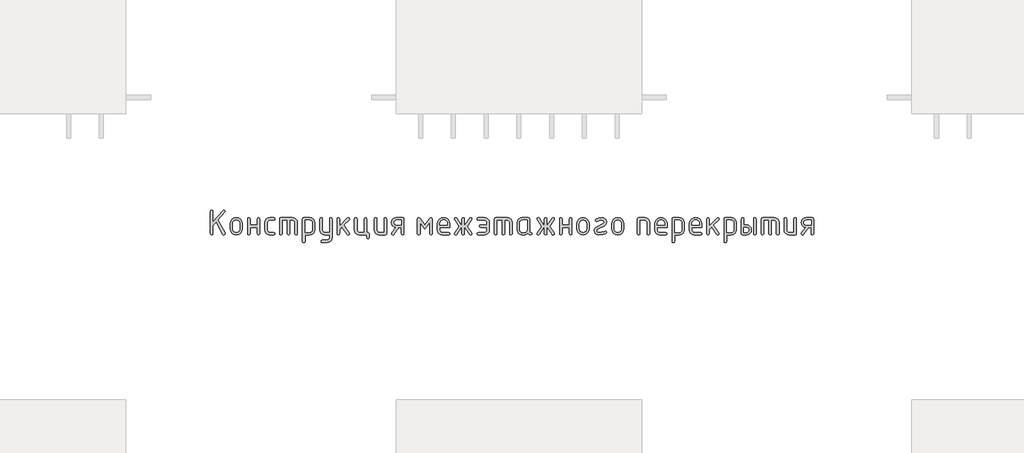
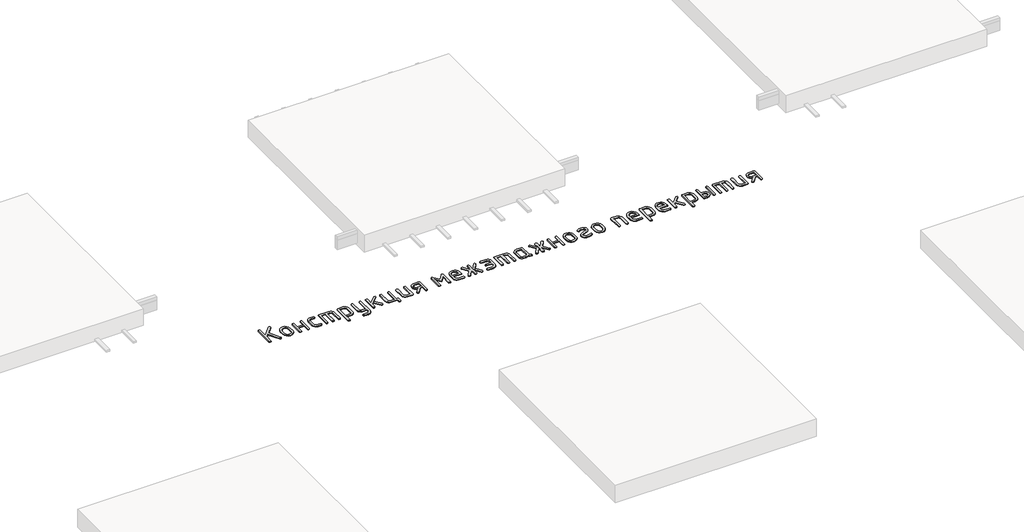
# One storey, part 40 of 42: 1 proxy.
"""IFC4 building model written with IfcOpenShell, lengths in millimetres."""

from ifc_helpers import new_model, si_unit, origin, origin_with_axes, place, context, project, spatial, polyline, outline, extrude, element, save

model = new_model("IFC4")

# Units and contexts
model_context = context("Model", 3, world=origin())
ifc_project = project(units=[si_unit("LENGTHUNIT", "METRE", prefix="MILLI")], contexts=[model_context])

# Site, building, storey
site = spatial("IfcSite", under=ifc_project)
building = spatial("IfcBuilding", under=site)
storey = spatial("IfcBuildingStorey", under=building, Name="Этаж 01", Elevation=0.0)

# Proxy
placement = place(None, origin())
element("IfcBuildingElementProxy", 1, Name="300 мм GOST Common", ObjectType="300 мм GOST Common", at=placement, inside=storey, context=model_context, shape_type="SweptSolid", body=[
    extrude(outline(polyline([(57113.6180624, -38749.8028226), (57074.3967756, -38793.2206257), (57074.3967756, -38893.8563142), (57070.5230683, -38905.2958562), (57058.9019463, -38909.1090368), (57047.2808243, -38905.2958562), (57043.4071169, -38893.8563142), (57043.4071169, -38619.6301156), (57047.2808243, -38608.1905736), (57058.9019463, -38604.377393), (57070.5230683, -38608.1905736), (57074.3967756, -38619.6301156), (57074.3967756, -38747.7045644), (57199.243135, -38609.4616338), (57210.7835548, -38604.377393), (57222.1020434, -38608.1905736), (57225.874873, -38619.6301156), (57221.7590589, -38630.0407041), (57135.2462617, -38725.8342584), (57223.8573171, -38886.270304), (57225.874873, -38893.8563142), (57221.1941433, -38904.387956), (57210.7835548, -38909.1090368), (57202.7940334, -38907.0914809), (57197.2255791, -38901.0388132), (57113.6180624, -38749.8028226)])), origin_with_axes(), (0.0, 0.0, 1.0), 10.0),
    extrude(outline(polyline([(57286.1594434, -38833.4910415), (57286.1594434, -38772.9643644), (57291.6371077, -38743.8913838), (57308.0701005, -38719.4587818), (57332.2706836, -38702.8744722), (57361.0511186, -38697.3463691), (57390.134187, -38702.8139456), (57414.2742434, -38719.2166751), (57430.5256562, -38743.5887504), (57435.9427938, -38772.9643644), (57435.9427938, -38833.4910415), (57430.4651295, -38862.5640221), (57414.0321367, -38886.9966241), (57389.8315536, -38903.5809337), (57361.0511186, -38909.1090368), (57332.2706836, -38903.5809337), (57308.0701005, -38886.9966241), (57291.6371077, -38862.5640221), (57286.1594434, -38833.4910415)]), holes=[polyline([(57404.9531351, -38832.6033169), (57404.9531351, -38771.9959375), (57401.7351334, -38754.5642545), (57392.0811284, -38739.8764475), (57377.8876226, -38729.8895458), (57361.0511186, -38726.5605786), (57344.2146146, -38729.8895458), (57330.0211088, -38739.8764475), (57320.3671038, -38754.5642545), (57317.1491021, -38771.9959375), (57317.1491021, -38832.6033169), (57320.3368404, -38850.1964044), (57329.9000554, -38864.8842114), (57344.0632979, -38874.8105865), (57361.0511186, -38878.1193781), (57377.8876226, -38874.7904109), (57392.0811284, -38864.8035092), (57401.7351334, -38850.0955266), (57404.9531351, -38832.6033169)])]), origin_with_axes(), (0.0, 0.0, 1.0), 10.0),
    extrude(outline(polyline([(57528.9117699, -38816.1400607), (57528.9117699, -38893.6142075), (57525.0380625, -38905.2353295), (57513.4169405, -38909.1090368), (57501.7958185, -38905.3362073), (57497.9221112, -38894.0177187), (57497.9221112, -38712.4376872), (57501.7958185, -38701.1191986), (57513.4169405, -38697.3463691), (57525.0380625, -38700.9981452), (57528.9117699, -38711.9534738), (57528.9117699, -38785.150402), (57616.7158029, -38785.150402), (57616.7158029, -38711.9534738), (57620.5895102, -38700.9981452), (57632.2106322, -38697.3463691), (57643.8317542, -38701.1191986), (57647.7054616, -38712.4376872), (57647.7054616, -38894.0177187), (57643.8317542, -38905.3362073), (57632.2106322, -38909.1090368), (57620.5895102, -38905.2353295), (57616.7158029, -38893.6142075), (57616.7158029, -38816.1400607), (57528.9117699, -38816.1400607)])), origin_with_axes(), (0.0, 0.0, 1.0), 10.0),
    extrude(outline(polyline([(57740.6744377, -38758.2765574), (57740.6744377, -38848.1788485), (57742.9139247, -38859.5881272), (57749.6323859, -38869.2824833), (57759.4377076, -38875.9101544), (57770.9377762, -38878.1193781), (57816.4538374, -38878.1193781), (57827.7723261, -38881.9930855), (57831.5451556, -38893.6142075), (57827.7723261, -38905.2353295), (57816.4538374, -38909.1090368), (57770.9377762, -38909.1090368), (57747.3928988, -38904.7309405), (57727.6006754, -38891.5966516), (57714.1637531, -38872.086886), (57709.684779, -38848.5823597), (57709.684779, -38757.8730462), (57714.1637531, -38734.3685199), (57727.6006754, -38714.8587543), (57747.3928988, -38701.7244654), (57770.9377762, -38697.3463691), (57816.4538374, -38697.3463691), (57827.7723261, -38701.2200764), (57831.5451556, -38712.8411984), (57827.7723261, -38724.4623204), (57816.4538374, -38728.3360278), (57770.9377762, -38728.3360278), (57759.2863909, -38730.5250759), (57749.5113325, -38737.0922204), (57742.8836614, -38746.766401), (57740.6744377, -38758.2765574)])), origin_with_axes(), (0.0, 0.0, 1.0), 10.0),
    extrude(outline(polyline([(57905.9526174, -38697.3463691), (58045.4060815, -38697.3463691), (58069.2939434, -38701.7547287), (58089.308098, -38714.9798077), (58102.8660737, -38734.5198366), (58107.3853989, -38757.8730462), (58107.3853989, -38894.0177187), (58103.5116916, -38905.3362073), (58091.8905696, -38909.1090368), (58080.2694476, -38905.3362073), (58076.3957402, -38894.0177187), (58076.3957402, -38758.4379619), (58074.166341, -38746.7058743), (58067.4781431, -38737.0115182), (58057.5013292, -38730.5049004), (58045.4060815, -38728.3360278), (58014.4164228, -38728.3360278), (58014.4164228, -38894.0177187), (58010.5427155, -38905.3362073), (57998.9215935, -38909.1090368), (57987.3004715, -38905.3362073), (57983.4267641, -38894.0177187), (57983.4267641, -38728.3360278), (57921.4474467, -38728.3360278), (57921.4474467, -38894.0177187), (57917.5737394, -38905.3362073), (57905.9526174, -38909.1090368), (57894.3314954, -38905.3362073), (57890.457788, -38894.0177187), (57890.457788, -38712.4376872), (57894.3314954, -38701.1191986), (57905.9526174, -38697.3463691)])), origin_with_axes(), (0.0, 0.0, 1.0), 10.0),
    extrude(outline(polyline([(58169.3647163, -38712.5990917), (58173.1173703, -38701.1595497), (58184.3753323, -38697.3463691), (58259.2670075, -38697.3463691), (58282.4890759, -38701.7244654), (58301.7970859, -38714.8587543), (58314.8103215, -38734.3685199), (58319.1480667, -38757.8730462), (58319.1480667, -38848.5823597), (58314.8405849, -38871.9355693), (58301.9181393, -38891.4755982), (58282.761446, -38904.7006772), (58259.7512209, -38909.1090368), (58200.354375, -38909.1090368), (58200.354375, -38986.5831836), (58196.4806677, -38998.2043056), (58184.8595457, -39002.0780129), (58173.2384237, -38998.2648323), (58169.3647163, -38986.8252903), (58169.3647163, -38712.5990917)]), holes=[polyline([(58200.354375, -38728.3360278), (58200.354375, -38878.1193781), (58258.8634963, -38878.1193781), (58270.1416338, -38875.93033), (58279.603971, -38869.3631855), (58286.0197988, -38859.6890049), (58288.158408, -38848.1788485), (58288.158408, -38758.2765574), (58286.0500621, -38746.6150843), (58279.7250243, -38736.971167), (58270.2929505, -38730.4948126), (58258.8634963, -38728.3360278), (58200.354375, -38728.3360278)])]), origin_with_axes(), (0.0, 0.0, 1.0), 10.0),
    extrude(outline(polyline([(58499.9210758, -38940.582909), (58499.9210758, -38909.1090368), (58440.5242299, -38909.1090368), (58417.5140049, -38904.7006772), (58398.3573115, -38891.4755982), (58385.434866, -38871.9355693), (58381.1273841, -38848.5823597), (58381.1273841, -38712.4376872), (58385.0010914, -38701.1191986), (58396.6222135, -38697.3463691), (58408.2433355, -38701.1191986), (58412.1170428, -38712.4376872), (58412.1170428, -38848.017444), (58414.2758276, -38859.4468982), (58420.7521821, -38869.201781), (58430.2346948, -38875.8899789), (58441.4119545, -38878.1193781), (58499.9210758, -38878.1193781), (58499.9210758, -38712.4376872), (58503.7947831, -38701.1191986), (58515.4159051, -38697.3463691), (58527.0370271, -38701.1595497), (58530.9107345, -38712.5990917), (58530.9107345, -38941.1478246), (58526.6637793, -38964.601912), (58513.9229138, -38984.2831699), (58494.9881516, -38997.6293022), (58472.1595065, -39002.0780129), (58412.1170428, -39002.0780129), (58400.7380275, -38998.2043056), (58396.9450224, -38986.5831836), (58401.5450499, -38975.7690839), (58412.1170428, -38971.0883542), (58470.626164, -38971.0883542), (58482.0556183, -38968.9194816), (58491.4876921, -38962.4128638), (58497.8127299, -38952.6176299), (58499.9210758, -38940.582909)])), origin_with_axes(), (0.0, 0.0, 1.0), 10.0),
    extrude(outline(polyline([(58623.8797106, -38796.7715241), (58719.1083493, -38701.7042898), (58729.9224489, -38697.3463691), (58741.3014642, -38701.1191986), (58745.0944693, -38712.4376872), (58740.4944419, -38723.0096802), (58673.915097, -38789.5083228), (58742.1084866, -38885.3018772), (58745.0944693, -38894.1791231), (58741.3014642, -38905.3765584), (58729.9224489, -38909.1090368), (58722.780301, -38907.4949921), (58717.3329001, -38902.6528579), (58652.1254933, -38811.0558199), (58623.8797106, -38839.3016025), (58623.8797106, -38893.9370164), (58620.0060032, -38905.3160317), (58608.3848812, -38909.1090368), (58596.7637592, -38905.3362073), (58592.8900519, -38894.0177187), (58592.8900519, -38712.4376872), (58596.7637592, -38701.1191986), (58608.3848812, -38697.3463691), (58620.0060032, -38701.1191986), (58623.8797106, -38712.4376872), (58623.8797106, -38796.7715241)])), origin_with_axes(), (0.0, 0.0, 1.0), 10.0),
    extrude(outline(polyline([(58969.9308994, -38878.1193781), (58981.5520214, -38881.9930855), (58985.4257287, -38893.6142075), (58985.4257287, -38940.0986955), (58981.5520214, -38951.7198175), (58969.9308994, -38955.5935249), (58958.3097774, -38951.7198175), (58954.43607, -38940.0986955), (58954.43607, -38909.1090368), (58864.5337789, -38909.1090368), (58841.3117105, -38904.7006772), (58822.0037004, -38891.4755982), (58808.9904649, -38871.9355693), (58804.6527197, -38848.5823597), (58804.6527197, -38712.4376872), (58808.526427, -38701.1191986), (58820.147549, -38697.3463691), (58831.768671, -38701.1191986), (58835.6423784, -38712.4376872), (58835.6423784, -38848.017444), (58837.8011632, -38859.4468982), (58844.2775176, -38869.201781), (58853.7600304, -38875.8899789), (58864.9372901, -38878.1193781), (58923.4464113, -38878.1193781), (58923.4464113, -38712.4376872), (58927.3201187, -38701.1191986), (58938.9412407, -38697.3463691), (58950.5623627, -38701.1191986), (58954.43607, -38712.4376872), (58954.43607, -38878.1193781), (58969.9308994, -38878.1193781)])), origin_with_axes(), (0.0, 0.0, 1.0), 10.0),
    extrude(outline(polyline([(59197.1883965, -38712.4376872), (59197.1883965, -38894.0177187), (59193.4357425, -38905.3362073), (59182.1777806, -38909.1090368), (59107.2861054, -38909.1090368), (59084.0640369, -38904.7309405), (59064.7560269, -38891.5966516), (59051.7427913, -38872.086886), (59047.4050461, -38848.5823597), (59047.4050461, -38712.4376872), (59051.2787535, -38701.1191986), (59062.8998755, -38697.3463691), (59074.5209975, -38701.1191986), (59078.3947048, -38712.4376872), (59078.3947048, -38848.017444), (59080.5534897, -38859.4468982), (59087.0298441, -38869.201781), (59096.5123569, -38875.8899789), (59107.6896166, -38878.1193781), (59166.1987378, -38878.1193781), (59166.1987378, -38712.4376872), (59170.0724452, -38701.1191986), (59181.6935672, -38697.3463691), (59193.3146892, -38701.1191986), (59197.1883965, -38712.4376872)])), origin_with_axes(), (0.0, 0.0, 1.0), 10.0),
    extrude(outline(polyline([(59310.7364428, -38817.9155099), (59289.360438, -38811.6106477), (59272.0397206, -38798.1838132), (59260.5699153, -38779.6122111), (59256.7466468, -38757.8730462), (59261.1449187, -38734.3685199), (59274.3397343, -38714.8587543), (59293.889851, -38701.7244654), (59317.3540262, -38697.3463691), (59393.4562349, -38697.3463691), (59405.077357, -38701.1191986), (59408.9510643, -38712.4376872), (59408.9510643, -38894.0177187), (59405.077357, -38905.3362073), (59393.4562349, -38909.1090368), (59381.8351129, -38905.3160317), (59377.9614056, -38893.9370164), (59377.9614056, -38818.2383189), (59347.2138536, -38818.2383189), (59284.1047049, -38902.8949647), (59278.7581817, -38907.5555188), (59271.9186672, -38909.1090368), (59260.5396519, -38905.3362073), (59256.7466468, -38894.0177187), (59259.7326296, -38884.8176637), (59310.7364428, -38817.9155099)]), holes=[polyline([(59287.0906876, -38758.6800686), (59289.3301747, -38770.1801372), (59296.0486359, -38779.9854589), (59305.8539576, -38786.7039201), (59317.3540262, -38788.9434071), (59377.9614056, -38788.9434071), (59377.9614056, -38728.3360278), (59317.3540262, -38728.3360278), (59305.7026409, -38730.5452515), (59295.9275825, -38737.1729226), (59289.2999114, -38746.9681565), (59287.0906876, -38758.6800686)])]), origin_with_axes(), (0.0, 0.0, 1.0), 10.0),
    extrude(outline(polyline([(59665.099962, -38833.5717438), (59605.2189027, -38756.0168948), (59605.2189027, -38894.0177187), (59601.3451954, -38905.3362073), (59589.7240734, -38909.1090368), (59578.1029514, -38905.3362073), (59574.229244, -38894.0177187), (59574.229244, -38712.4376872), (59578.1029514, -38701.1191986), (59589.7240734, -38697.3463691), (59597.471488, -38699.7472606), (59605.2189027, -38706.9499352), (59664.6157486, -38784.5854864), (59724.0125944, -38706.9499352), (59731.7600091, -38699.7472606), (59739.5074237, -38697.3463691), (59751.1285458, -38701.1191986), (59755.0022531, -38712.4376872), (59755.0022531, -38894.0177187), (59751.1285458, -38905.3362073), (59739.5074237, -38909.1090368), (59727.8863017, -38905.3362073), (59724.0125944, -38894.0177187), (59724.900319, -38756.0168948), (59665.099962, -38833.5717438)])), origin_with_axes(), (0.0, 0.0, 1.0), 10.0),
    extrude(outline(polyline([(59847.9712292, -38816.1400607), (59847.9712292, -38847.1297194), (59850.2107162, -38858.9223337), (59856.9291774, -38868.9596743), (59866.7344991, -38875.8294522), (59878.2345678, -38878.1193781), (59954.0139676, -38878.1193781), (59965.3929829, -38881.9930855), (59969.185988, -38893.6142075), (59965.3929829, -38905.2353295), (59954.0139676, -38909.1090368), (59878.2345678, -38909.1090368), (59854.6896904, -38904.7309405), (59834.8974669, -38891.5966516), (59821.4605446, -38872.086886), (59816.9815705, -38848.5823597), (59816.9815705, -38772.9643644), (59822.6004637, -38743.8913838), (59839.4571433, -38719.4587818), (59864.1822909, -38702.8744722), (59893.4065882, -38697.3463691), (59922.8528166, -38702.7130678), (59947.2753308, -38718.8131639), (59963.7083237, -38742.7413769), (59969.185988, -38771.5924264), (59969.185988, -38816.1400607), (59847.9712292, -38816.1400607)]), holes=[polyline([(59893.4065882, -38724.5430227), (59875.9749052, -38727.8719899), (59861.2870982, -38737.8588916), (59851.3001964, -38752.5466986), (59847.9712292, -38769.9783816), (59847.9712292, -38785.150402), (59938.8419472, -38785.150402), (59938.8419472, -38769.9783816), (59935.5129799, -38752.5466986), (59925.5260782, -38737.8588916), (59910.8382712, -38727.8719899), (59893.4065882, -38724.5430227)])]), origin_with_axes(), (0.0, 0.0, 1.0), 10.0),
    extrude(outline(polyline([(60116.5482713, -38808.0698371), (60053.4391225, -38902.4914535), (60048.0925994, -38907.454641), (60040.7688715, -38909.1090368), (60030.0758252, -38904.6300627), (60025.5968511, -38894.0177187), (60028.1793226, -38885.4632816), (60083.4603544, -38803.2277029), (60028.1793226, -38720.9921243), (60025.5968511, -38712.4376872), (60029.3898562, -38701.1191986), (60040.7688715, -38697.3463691), (60048.0925994, -38699.0007649), (60053.4391225, -38703.9639524), (60116.5482713, -38798.3855688), (60116.5482713, -38712.4376872), (60120.4219786, -38701.1191986), (60132.0431006, -38697.3463691), (60143.6642226, -38701.1191986), (60147.53793, -38712.4376872), (60147.53793, -38798.3855688), (60210.7277809, -38703.9639524), (60216.0541285, -38699.0007649), (60223.3173297, -38697.3463691), (60234.696345, -38701.1191986), (60238.4893501, -38712.4376872), (60235.9068786, -38720.9921243), (60180.6258468, -38803.2277029), (60235.9068786, -38885.4632816), (60238.4893501, -38894.0177187), (60234.696345, -38905.3362073), (60223.3173297, -38909.1090368), (60216.0541285, -38907.454641), (60210.7277809, -38902.4914535), (60147.53793, -38808.0698371), (60147.53793, -38894.0177187), (60143.6642226, -38905.3362073), (60132.0431006, -38909.1090368), (60120.4219786, -38905.3362073), (60116.5482713, -38894.0177187), (60116.5482713, -38808.0698371)])), origin_with_axes(), (0.0, 0.0, 1.0), 10.0),
    extrude(outline(polyline([(60421.2799151, -38816.1400607), (60345.5812176, -38816.1400607), (60334.2022023, -38812.2663534), (60330.4091972, -38800.6452314), (60334.2022023, -38789.0241094), (60345.5812176, -38785.150402), (60421.2799151, -38785.150402), (60421.2799151, -38756.7432149), (60419.1009547, -38745.6769208), (60412.5640736, -38736.5273047), (60402.8192786, -38730.383847), (60391.0165766, -38728.3360278), (60315.2371768, -38728.3360278), (60303.8581615, -38724.4623204), (60300.0651564, -38712.8411984), (60303.8581615, -38701.2200764), (60315.2371768, -38697.3463691), (60391.0165766, -38697.3463691), (60414.6118929, -38701.7244654), (60434.3940285, -38714.8587543), (60447.8006875, -38734.3685199), (60452.2695738, -38757.8730462), (60452.2695738, -38848.5823597), (60447.8006875, -38872.086886), (60434.3940285, -38891.5966516), (60414.6118929, -38904.7309405), (60391.0165766, -38909.1090368), (60315.2371768, -38909.1090368), (60303.8581615, -38905.2353295), (60300.0651564, -38893.6142075), (60303.8581615, -38881.9930855), (60315.2371768, -38878.1193781), (60391.0165766, -38878.1193781), (60402.6679619, -38875.8597155), (60412.4430203, -38869.0807277), (60419.0706914, -38859.0736504), (60421.2799151, -38847.1297194), (60421.2799151, -38816.1400607)])), origin_with_axes(), (0.0, 0.0, 1.0), 10.0),
    extrude(outline(polyline([(60529.7437206, -38697.3463691), (60669.1971847, -38697.3463691), (60693.0850466, -38701.7547287), (60713.0992012, -38714.9798077), (60726.6571769, -38734.5198366), (60731.1765021, -38757.8730462), (60731.1765021, -38894.0177187), (60727.3027948, -38905.3362073), (60715.6816728, -38909.1090368), (60704.0605508, -38905.3362073), (60700.1868434, -38894.0177187), (60700.1868434, -38758.4379619), (60697.9574441, -38746.7058743), (60691.2692463, -38737.0115182), (60681.2924324, -38730.5049004), (60669.1971847, -38728.3360278), (60638.207526, -38728.3360278), (60638.207526, -38894.0177187), (60634.3338187, -38905.3362073), (60622.7126967, -38909.1090368), (60611.0915747, -38905.3362073), (60607.2178673, -38894.0177187), (60607.2178673, -38728.3360278), (60545.2385499, -38728.3360278), (60545.2385499, -38894.0177187), (60541.3648426, -38905.3362073), (60529.7437206, -38909.1090368), (60518.1225986, -38905.3362073), (60514.2488912, -38894.0177187), (60514.2488912, -38712.4376872), (60518.1225986, -38701.1191986), (60529.7437206, -38697.3463691)])), origin_with_axes(), (0.0, 0.0, 1.0), 10.0),
    extrude(outline(polyline([(60973.2025085, -38894.0177187), (60969.4296789, -38905.3362073), (60958.1111903, -38909.1090368), (60938.9645848, -38905.0941006), (60923.6513354, -38893.0492918), (60905.23105, -38905.0941006), (60883.0581106, -38909.1090368), (60853.0368788, -38909.1090368), (60829.8148103, -38904.7309405), (60810.5068003, -38891.5966516), (60797.4935647, -38872.086886), (60793.1558195, -38848.5823597), (60793.1558195, -38757.8730462), (60797.4935647, -38734.3685199), (60810.5068003, -38714.8587543), (60829.8148103, -38701.7244654), (60853.0368788, -38697.3463691), (60927.928554, -38697.3463691), (60939.1865159, -38701.1191986), (60942.9391699, -38712.4376872), (60942.9391699, -38863.7543801), (60946.7220872, -38875.0728687), (60958.0708392, -38878.8456983), (60969.4195911, -38882.6387034), (60973.2025085, -38894.0177187)]), holes=[polyline([(60911.9495112, -38728.3360278), (60853.44039, -38728.3360278), (60842.1622524, -38730.5250759), (60832.6999152, -38737.0922204), (60826.2840875, -38746.766401), (60824.1454782, -38758.2765574), (60824.1454782, -38848.1788485), (60826.304263, -38859.5881272), (60832.7806175, -38869.2824833), (60842.2631302, -38875.9101544), (60853.44039, -38878.1193781), (60882.6545995, -38878.1193781), (60893.932737, -38875.93033), (60903.3950742, -38869.3631855), (60909.8109019, -38859.6890049), (60911.9495112, -38848.1788485), (60911.9495112, -38728.3360278)])]), origin_with_axes(), (0.0, 0.0, 1.0), 10.0),
    extrude(outline(polyline([(61123.712179, -38808.0698371), (61060.6030303, -38902.4914535), (61055.2565071, -38907.454641), (61047.9327792, -38909.1090368), (61037.2397329, -38904.6300627), (61032.7607588, -38894.0177187), (61035.3432303, -38885.4632816), (61090.6242621, -38803.2277029), (61035.3432303, -38720.9921243), (61032.7607588, -38712.4376872), (61036.5537639, -38701.1191986), (61047.9327792, -38697.3463691), (61055.2565071, -38699.0007649), (61060.6030303, -38703.9639524), (61123.712179, -38798.3855688), (61123.712179, -38712.4376872), (61127.5858863, -38701.1191986), (61139.2070083, -38697.3463691), (61150.8281303, -38701.1191986), (61154.7018377, -38712.4376872), (61154.7018377, -38798.3855688), (61217.8916886, -38703.9639524), (61223.2180362, -38699.0007649), (61230.4812375, -38697.3463691), (61241.8602528, -38701.1191986), (61245.6532579, -38712.4376872), (61243.0707863, -38720.9921243), (61187.7897545, -38803.2277029), (61243.0707863, -38885.4632816), (61245.6532579, -38894.0177187), (61241.8602528, -38905.3362073), (61230.4812375, -38909.1090368), (61223.2180362, -38907.454641), (61217.8916886, -38902.4914535), (61154.7018377, -38808.0698371), (61154.7018377, -38894.0177187), (61150.8281303, -38905.3362073), (61139.2070083, -38909.1090368), (61127.5858863, -38905.3362073), (61123.712179, -38894.0177187), (61123.712179, -38808.0698371)])), origin_with_axes(), (0.0, 0.0, 1.0), 10.0),
    extrude(outline(polyline([(61340.6397899, -38816.1400607), (61340.6397899, -38893.6142075), (61336.7660825, -38905.2353295), (61325.1449605, -38909.1090368), (61313.5238385, -38905.3362073), (61309.6501312, -38894.0177187), (61309.6501312, -38712.4376872), (61313.5238385, -38701.1191986), (61325.1449605, -38697.3463691), (61336.7660825, -38700.9981452), (61340.6397899, -38711.9534738), (61340.6397899, -38785.150402), (61428.4438228, -38785.150402), (61428.4438228, -38711.9534738), (61432.3175302, -38700.9981452), (61443.9386522, -38697.3463691), (61455.5597742, -38701.1191986), (61459.4334815, -38712.4376872), (61459.4334815, -38894.0177187), (61455.5597742, -38905.3362073), (61443.9386522, -38909.1090368), (61432.3175302, -38905.2353295), (61428.4438228, -38893.6142075), (61428.4438228, -38816.1400607), (61340.6397899, -38816.1400607)])), origin_with_axes(), (0.0, 0.0, 1.0), 10.0),
    extrude(outline(polyline([(61521.4127989, -38833.4910415), (61521.4127989, -38772.9643644), (61526.8904632, -38743.8913838), (61543.3234561, -38719.4587818), (61567.5240391, -38702.8744722), (61596.3044741, -38697.3463691), (61625.3875425, -38702.8139456), (61649.5275989, -38719.2166751), (61665.7790117, -38743.5887504), (61671.1961493, -38772.9643644), (61671.1961493, -38833.4910415), (61665.718485, -38862.5640221), (61649.2854922, -38886.9966241), (61625.0849091, -38903.5809337), (61596.3044741, -38909.1090368), (61567.5240391, -38903.5809337), (61543.3234561, -38886.9966241), (61526.8904632, -38862.5640221), (61521.4127989, -38833.4910415)]), holes=[polyline([(61640.2064906, -38832.6033169), (61640.2064906, -38771.9959375), (61636.988489, -38754.5642545), (61627.3344839, -38739.8764475), (61613.1409782, -38729.8895458), (61596.3044741, -38726.5605786), (61579.4679701, -38729.8895458), (61565.2744643, -38739.8764475), (61555.6204593, -38754.5642545), (61552.4024576, -38771.9959375), (61552.4024576, -38832.6033169), (61555.590196, -38850.1964044), (61565.153411, -38864.8842114), (61579.3166534, -38874.8105865), (61596.3044741, -38878.1193781), (61613.1409782, -38874.7904109), (61627.3344839, -38864.8035092), (61636.988489, -38850.0955266), (61640.2064906, -38832.6033169)])]), origin_with_axes(), (0.0, 0.0, 1.0), 10.0),
    extrude(outline(polyline([(61868.8359258, -38862.9473577), (61880.2149411, -38866.7403628), (61884.0079462, -38878.1193781), (61881.8895125, -38886.0685484), (61875.5342114, -38892.0001628), (61858.9549457, -38899.4852952), (61838.4313583, -38904.8318183), (61785.551218, -38909.1090368), (61765.0932011, -38905.2555051), (61747.9439759, -38893.6949097), (61736.3228539, -38876.6667379), (61732.4491466, -38856.4104766), (61734.3456491, -38841.0215689), (61740.0351568, -38827.9427628), (61749.5176695, -38817.1740581), (61762.7931874, -38808.715455), (61841.3164632, -38771.0275107), (61850.5770448, -38763.0178138), (61853.6639054, -38750.9326539), (61851.9994217, -38742.2571635), (61847.0059709, -38734.9536111), (61839.6721552, -38729.9904236), (61830.986577, -38728.3360278), (61792.6530148, -38731.5641172), (61769.8949842, -38741.6518967), (61762.7931874, -38743.5080482), (61752.2211945, -38738.9080207), (61747.621167, -38728.3360278), (61749.6387229, -38720.6894909), (61755.6913906, -38714.6973498), (61787.8310562, -38701.6841143), (61830.986577, -38697.3463691), (61851.3840672, -38701.1999008), (61868.5131168, -38712.7604962), (61880.1342388, -38729.788668), (61884.0079462, -38750.0449293), (61882.0963119, -38765.433837), (61876.3614093, -38778.5126431), (61866.8032382, -38789.2813478), (61853.4217986, -38797.7399509), (61775.624843, -38834.9436818), (61766.0011013, -38843.1954854), (61762.7931874, -38855.522752), (61764.457671, -38864.1982424), (61769.4511219, -38871.5017948), (61776.8051132, -38876.4649823), (61785.551218, -38878.1193781), (61827.0926941, -38874.6088309), (61863.106067, -38864.077189), (61868.8359258, -38862.9473577)])), origin_with_axes(), (0.0, 0.0, 1.0), 10.0),
    extrude(outline(polyline([(61944.9381345, -38833.4910415), (61944.9381345, -38772.9643644), (61950.4157988, -38743.8913838), (61966.8487916, -38719.4587818), (61991.0493747, -38702.8744722), (62019.8298097, -38697.3463691), (62048.9128781, -38702.8139456), (62073.0529345, -38719.2166751), (62089.3043473, -38743.5887504), (62094.7214849, -38772.9643644), (62094.7214849, -38833.4910415), (62089.2438206, -38862.5640221), (62072.8108277, -38886.9966241), (62048.6102447, -38903.5809337), (62019.8298097, -38909.1090368), (61991.0493747, -38903.5809337), (61966.8487916, -38886.9966241), (61950.4157988, -38862.5640221), (61944.9381345, -38833.4910415)]), holes=[polyline([(62063.7318262, -38832.6033169), (62063.7318262, -38771.9959375), (62060.5138245, -38754.5642545), (62050.8598195, -38739.8764475), (62036.6663137, -38729.8895458), (62019.8298097, -38726.5605786), (62002.9933057, -38729.8895458), (61988.7997999, -38739.8764475), (61979.1457949, -38754.5642545), (61975.9277932, -38771.9959375), (61975.9277932, -38832.6033169), (61979.1155315, -38850.1964044), (61988.6787465, -38864.8842114), (62002.841989, -38874.8105865), (62019.8298097, -38878.1193781), (62036.6663137, -38874.7904109), (62050.8598195, -38864.8035092), (62060.5138245, -38850.0955266), (62063.7318262, -38832.6033169)])]), origin_with_axes(), (0.0, 0.0, 1.0), 10.0),
    extrude(outline(polyline([(62259.9996646, -38894.0177187), (62259.9996646, -38712.4376872), (62263.7523186, -38701.1191986), (62275.0102805, -38697.3463691), (62349.9019557, -38697.3463691), (62372.9727075, -38701.7547287), (62392.3109808, -38714.9798077), (62405.4150064, -38734.5198366), (62409.783015, -38757.8730462), (62409.783015, -38894.0177187), (62405.9093076, -38905.3362073), (62394.2881856, -38909.1090368), (62382.6670636, -38905.3362073), (62378.7933563, -38894.0177187), (62378.7933563, -38758.4379619), (62376.6850104, -38746.7058743), (62370.3599726, -38737.0115182), (62360.9278987, -38730.5049004), (62349.4984445, -38728.3360278), (62290.9893233, -38728.3360278), (62290.9893233, -38894.0177187), (62287.115616, -38905.3362073), (62275.4944939, -38909.1090368), (62263.8733719, -38905.3362073), (62259.9996646, -38894.0177187)])), origin_with_axes(), (0.0, 0.0, 1.0), 10.0),
    extrude(outline(polyline([(62502.7519911, -38816.1400607), (62502.7519911, -38847.1297194), (62504.9914781, -38858.9223337), (62511.7099393, -38868.9596743), (62521.515261, -38875.8294522), (62533.0153296, -38878.1193781), (62608.7947294, -38878.1193781), (62620.1737447, -38881.9930855), (62623.9667498, -38893.6142075), (62620.1737447, -38905.2353295), (62608.7947294, -38909.1090368), (62533.0153296, -38909.1090368), (62509.4704522, -38904.7309405), (62489.6782288, -38891.5966516), (62476.2413065, -38872.086886), (62471.7623324, -38848.5823597), (62471.7623324, -38772.9643644), (62477.3812256, -38743.8913838), (62494.2379052, -38719.4587818), (62518.9630528, -38702.8744722), (62548.1873501, -38697.3463691), (62577.6335785, -38702.7130678), (62602.0560927, -38718.8131639), (62618.4890856, -38742.7413769), (62623.9667498, -38771.5924264), (62623.9667498, -38816.1400607), (62502.7519911, -38816.1400607)]), holes=[polyline([(62548.1873501, -38724.5430227), (62530.755667, -38727.8719899), (62516.06786, -38737.8588916), (62506.0809583, -38752.5466986), (62502.7519911, -38769.9783816), (62502.7519911, -38785.150402), (62593.622709, -38785.150402), (62593.622709, -38769.9783816), (62590.2937418, -38752.5466986), (62580.3068401, -38737.8588916), (62565.6190331, -38727.8719899), (62548.1873501, -38724.5430227)])]), origin_with_axes(), (0.0, 0.0, 1.0), 10.0),
    extrude(outline(polyline([(62683.5250002, -38712.5990917), (62687.2776541, -38701.1595497), (62698.5356161, -38697.3463691), (62773.4272913, -38697.3463691), (62796.6493597, -38701.7244654), (62815.9573697, -38714.8587543), (62828.9706053, -38734.3685199), (62833.3083505, -38757.8730462), (62833.3083505, -38848.5823597), (62829.0008687, -38871.9355693), (62816.0784231, -38891.4755982), (62796.9217298, -38904.7006772), (62773.9115047, -38909.1090368), (62714.5146589, -38909.1090368), (62714.5146589, -38986.5831836), (62710.6409515, -38998.2043056), (62699.0198295, -39002.0780129), (62687.3987075, -38998.2648323), (62683.5250002, -38986.8252903), (62683.5250002, -38712.5990917)]), holes=[polyline([(62714.5146589, -38728.3360278), (62714.5146589, -38878.1193781), (62773.0237801, -38878.1193781), (62784.3019176, -38875.93033), (62793.7642548, -38869.3631855), (62800.1800826, -38859.6890049), (62802.3186918, -38848.1788485), (62802.3186918, -38758.2765574), (62800.2103459, -38746.6150843), (62793.8853082, -38736.971167), (62784.4532343, -38730.4948126), (62773.0237801, -38728.3360278), (62714.5146589, -38728.3360278)])]), origin_with_axes(), (0.0, 0.0, 1.0), 10.0),
    extrude(outline(polyline([(62926.2773266, -38816.1400607), (62926.2773266, -38847.1297194), (62928.5168137, -38858.9223337), (62935.2352748, -38868.9596743), (62945.0405965, -38875.8294522), (62956.5406652, -38878.1193781), (63032.320065, -38878.1193781), (63043.6990803, -38881.9930855), (63047.4920854, -38893.6142075), (63043.6990803, -38905.2353295), (63032.320065, -38909.1090368), (62956.5406652, -38909.1090368), (62932.9957878, -38904.7309405), (62913.2035644, -38891.5966516), (62899.766642, -38872.086886), (62895.2876679, -38848.5823597), (62895.2876679, -38772.9643644), (62900.9065611, -38743.8913838), (62917.7632407, -38719.4587818), (62942.4883883, -38702.8744722), (62971.7126856, -38697.3463691), (63001.158914, -38702.7130678), (63025.5814283, -38718.8131639), (63042.0144211, -38742.7413769), (63047.4920854, -38771.5924264), (63047.4920854, -38816.1400607), (62926.2773266, -38816.1400607)]), holes=[polyline([(62971.7126856, -38724.5430227), (62954.2810026, -38727.8719899), (62939.5931956, -38737.8588916), (62929.6062939, -38752.5466986), (62926.2773266, -38769.9783816), (62926.2773266, -38785.150402), (63017.1480446, -38785.150402), (63017.1480446, -38769.9783816), (63013.8190773, -38752.5466986), (63003.8321756, -38737.8588916), (62989.1443686, -38727.8719899), (62971.7126856, -38724.5430227)])]), origin_with_axes(), (0.0, 0.0, 1.0), 10.0),
    extrude(outline(polyline([(63138.0399944, -38796.7715241), (63233.2686331, -38701.7042898), (63244.0827328, -38697.3463691), (63255.4617481, -38701.1191986), (63259.2547532, -38712.4376872), (63254.6547257, -38723.0096802), (63188.0753808, -38789.5083228), (63256.2687704, -38885.3018772), (63259.2547532, -38894.1791231), (63255.4617481, -38905.3765584), (63244.0827328, -38909.1090368), (63236.9405849, -38907.4949921), (63231.4931839, -38902.6528579), (63166.2857771, -38811.0558199), (63138.0399944, -38839.3016025), (63138.0399944, -38893.9370164), (63134.1662871, -38905.3160317), (63122.5451651, -38909.1090368), (63110.924043, -38905.3362073), (63107.0503357, -38894.0177187), (63107.0503357, -38712.4376872), (63110.924043, -38701.1191986), (63122.5451651, -38697.3463691), (63134.1662871, -38701.1191986), (63138.0399944, -38712.4376872), (63138.0399944, -38796.7715241)])), origin_with_axes(), (0.0, 0.0, 1.0), 10.0),
    extrude(outline(polyline([(63318.8130035, -38712.5990917), (63322.5656575, -38701.1595497), (63333.8236194, -38697.3463691), (63408.7152946, -38697.3463691), (63431.9373631, -38701.7244654), (63451.2453731, -38714.8587543), (63464.2586087, -38734.3685199), (63468.5963539, -38757.8730462), (63468.5963539, -38848.5823597), (63464.288872, -38871.9355693), (63451.3664264, -38891.4755982), (63432.2097331, -38904.7006772), (63409.199508, -38909.1090368), (63349.8026622, -38909.1090368), (63349.8026622, -38986.5831836), (63345.9289548, -38998.2043056), (63334.3078328, -39002.0780129), (63322.6867108, -38998.2648323), (63318.8130035, -38986.8252903), (63318.8130035, -38712.5990917)]), holes=[polyline([(63349.8026622, -38728.3360278), (63349.8026622, -38878.1193781), (63408.3117834, -38878.1193781), (63419.5899209, -38875.93033), (63429.0522581, -38869.3631855), (63435.4680859, -38859.6890049), (63437.6066952, -38848.1788485), (63437.6066952, -38758.2765574), (63435.4983492, -38746.6150843), (63429.1733115, -38736.971167), (63419.7412376, -38730.4948126), (63408.3117834, -38728.3360278), (63349.8026622, -38728.3360278)])]), origin_with_axes(), (0.0, 0.0, 1.0), 10.0),
    extrude(outline(polyline([(63680.3590216, -38712.4376872), (63684.232729, -38701.1191986), (63695.853851, -38697.3463691), (63707.474973, -38701.1191986), (63711.3486803, -38712.4376872), (63711.3486803, -38894.0177187), (63707.474973, -38905.3362073), (63695.853851, -38909.1090368), (63684.232729, -38905.3362073), (63680.3590216, -38894.0177187), (63680.3590216, -38712.4376872)])), origin_with_axes(), (0.0, 0.0, 1.0), 10.0),
    extrude(outline(polyline([(63652.4360479, -38847.1297194), (63648.0478638, -38871.168898), (63634.8833115, -38891.1527893), (63615.3432826, -38904.6199749), (63591.8286685, -38909.1090368), (63546.0705006, -38909.1090368), (63534.4493786, -38905.3362073), (63530.5756713, -38894.0177187), (63530.5756713, -38712.4376872), (63534.4493786, -38701.1191986), (63546.0705006, -38697.3463691), (63557.6916226, -38700.9981452), (63561.56533, -38711.9534738), (63561.56533, -38785.150402), (63591.8286685, -38785.150402), (63615.3432826, -38789.6394639), (63634.8833115, -38803.1066496), (63648.0478638, -38823.0905408), (63652.4360479, -38847.1297194)]), holes=[polyline([(63622.1727093, -38847.1297194), (63619.993749, -38835.0344718), (63613.4568678, -38825.0576578), (63603.6918973, -38818.36946), (63591.8286685, -38816.1400607), (63561.56533, -38816.1400607), (63561.56533, -38878.1193781), (63591.8286685, -38878.1193781), (63603.5405806, -38875.8597155), (63613.3358145, -38869.0807277), (63619.9634856, -38859.0736504), (63622.1727093, -38847.1297194)])]), origin_with_axes(), (0.0, 0.0, 1.0), 10.0),
    extrude(outline(polyline([(63788.8228271, -38697.3463691), (63928.2762912, -38697.3463691), (63952.1641531, -38701.7547287), (63972.1783077, -38714.9798077), (63985.7362834, -38734.5198366), (63990.2556086, -38757.8730462), (63990.2556086, -38894.0177187), (63986.3819013, -38905.3362073), (63974.7607793, -38909.1090368), (63963.1396573, -38905.3362073), (63959.2659499, -38894.0177187), (63959.2659499, -38758.4379619), (63957.0365507, -38746.7058743), (63950.3483528, -38737.0115182), (63940.3715389, -38730.5049004), (63928.2762912, -38728.3360278), (63897.2866325, -38728.3360278), (63897.2866325, -38894.0177187), (63893.4129252, -38905.3362073), (63881.7918032, -38909.1090368), (63870.1706812, -38905.3362073), (63866.2969738, -38894.0177187), (63866.2969738, -38728.3360278), (63804.3176564, -38728.3360278), (63804.3176564, -38894.0177187), (63800.4439491, -38905.3362073), (63788.8228271, -38909.1090368), (63777.2017051, -38905.3362073), (63773.3279977, -38894.0177187), (63773.3279977, -38712.4376872), (63777.2017051, -38701.1191986), (63788.8228271, -38697.3463691)])), origin_with_axes(), (0.0, 0.0, 1.0), 10.0),
    extrude(outline(polyline([(64202.0182764, -38712.4376872), (64202.0182764, -38894.0177187), (64198.2656224, -38905.3362073), (64187.0076605, -38909.1090368), (64112.1159853, -38909.1090368), (64088.8939168, -38904.7309405), (64069.5859068, -38891.5966516), (64056.5726712, -38872.086886), (64052.234926, -38848.5823597), (64052.234926, -38712.4376872), (64056.1086334, -38701.1191986), (64067.7297554, -38697.3463691), (64079.3508774, -38701.1191986), (64083.2245847, -38712.4376872), (64083.2245847, -38848.017444), (64085.3833695, -38859.4468982), (64091.859724, -38869.201781), (64101.3422368, -38875.8899789), (64112.5194965, -38878.1193781), (64171.0286177, -38878.1193781), (64171.0286177, -38712.4376872), (64174.902325, -38701.1191986), (64186.5234471, -38697.3463691), (64198.1445691, -38701.1191986), (64202.0182764, -38712.4376872)])), origin_with_axes(), (0.0, 0.0, 1.0), 10.0),
    extrude(outline(polyline([(64315.5663227, -38817.9155099), (64294.1903179, -38811.6106477), (64276.8696005, -38798.1838132), (64265.3997952, -38779.6122111), (64261.5765267, -38757.8730462), (64265.9747986, -38734.3685199), (64279.1696142, -38714.8587543), (64298.7197309, -38701.7244654), (64322.1839061, -38697.3463691), (64398.2861148, -38697.3463691), (64409.9072368, -38701.1191986), (64413.7809442, -38712.4376872), (64413.7809442, -38894.0177187), (64409.9072368, -38905.3362073), (64398.2861148, -38909.1090368), (64386.6649928, -38905.3160317), (64382.7912855, -38893.9370164), (64382.7912855, -38818.2383189), (64352.0437335, -38818.2383189), (64288.9345848, -38902.8949647), (64283.5880616, -38907.5555188), (64276.7485471, -38909.1090368), (64265.3695318, -38905.3362073), (64261.5765267, -38894.0177187), (64264.5625095, -38884.8176637), (64315.5663227, -38817.9155099)]), holes=[polyline([(64291.9205675, -38758.6800686), (64294.1600546, -38770.1801372), (64300.8785157, -38779.9854589), (64310.6838374, -38786.7039201), (64322.1839061, -38788.9434071), (64382.7912855, -38788.9434071), (64382.7912855, -38728.3360278), (64322.1839061, -38728.3360278), (64310.5325207, -38730.5452515), (64300.7574624, -38737.1729226), (64294.1297912, -38746.9681565), (64291.9205675, -38758.6800686)])]), origin_with_axes(), (0.0, 0.0, 1.0), 10.0),
])

save(model, "model.ifc")
